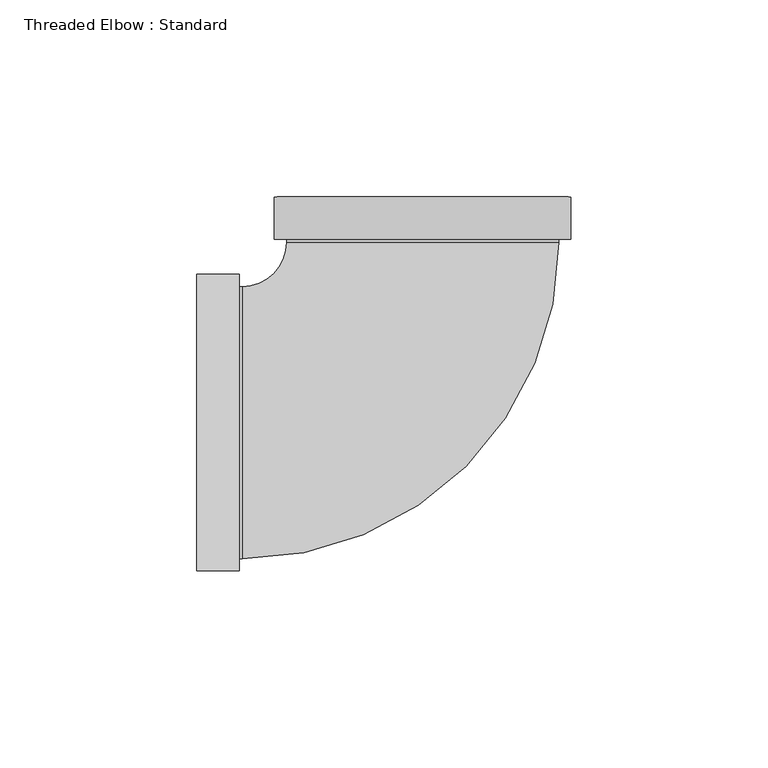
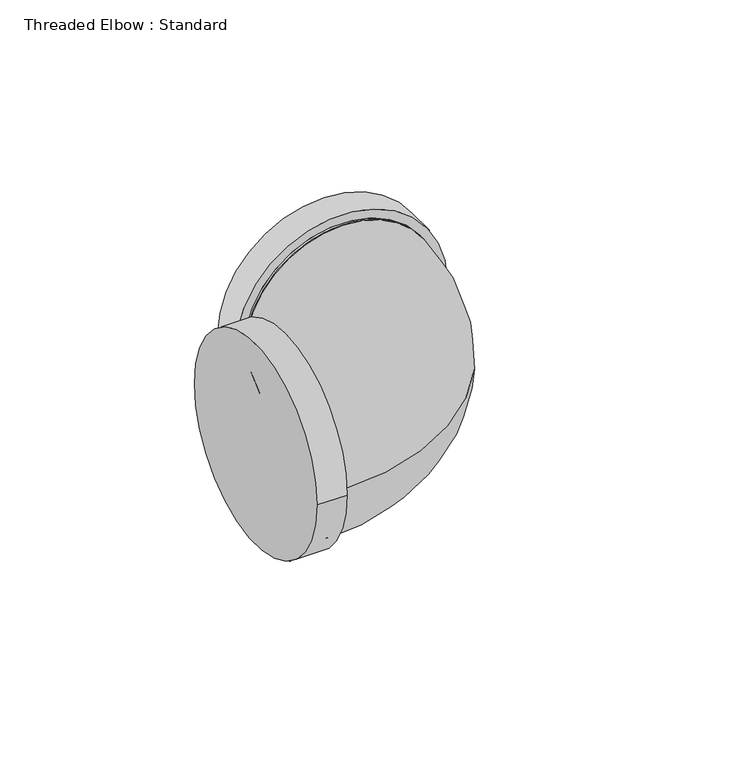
"""IFC4 building model written with IfcOpenShell, lengths in millimetres: pipe fitting geometry, Threaded Elbow : Standard."""

from ifc_helpers import new_model, si_unit, point, frame, origin, place, context, project, spatial, circle_curve, ellipse_curve, trimmed, source, transform, mapped, element, save
from ifc_brep_helpers import plane_surface, cylinder_surface, revolved_surface, advanced_brep


def threaded_elbow_standard_9b51c0a6(model_context):
    return source(origin(), model_context, "Body", "AdvancedBrep", [
        advanced_brep(
        [(37.65, 46.5849375, 0.0), (-37.65, 46.5849375, 0.0), (-34.54, 46.5849375, 0.0), (34.54, 46.5849375, 0.0), (37.65, 57.2849375, 0.0), (-37.65, 57.2849375, 0.0), (34.54, 45.7911875, 0.0), (-34.54, 45.7911875, 0.0)],
        [
            (0, 1, circle_curve(frame((0.0, 46.5849375, 0.0), z_axis=(0.0, -1.0, 0.0), x_axis=(-1.0, 0.0, 0.0)), 37.65)),
            (1, 0, circle_curve(frame((0.0, 46.5849375, 0.0), z_axis=(0.0, -1.0, 0.0), x_axis=(-1.0, 0.0, 0.0)), 37.65)),
            (2, 3, circle_curve(frame((0.0, 46.5849375, 0.0), z_axis=(0.0, 1.0, 0.0), x_axis=(-1.0, 0.0, 0.0)), 34.54)),
            (3, 2, circle_curve(frame((0.0, 46.5849375, 0.0), z_axis=(0.0, 1.0, 0.0), x_axis=(-1.0, 0.0, 0.0)), 34.54)),
            (4, 5, circle_curve(frame((0.0, 57.2849375, 0.0), z_axis=(0.0, 1.0, 0.0), x_axis=(-1.0, 0.0, 0.0)), 37.65)),
            (5, 4, circle_curve(frame((0.0, 57.2849375, 0.0), z_axis=(0.0, 1.0, 0.0), x_axis=(-1.0, 0.0, 0.0)), 37.65)),
            (0, 4),
            (5, 1),
            (6, 7, circle_curve(frame((0.0, 45.7911875, 0.0), z_axis=(0.0, -1.0, 0.0), x_axis=(-1.0, 0.0, 0.0)), 34.54)),
            (7, 6, circle_curve(frame((0.0, 45.7911875, 0.0), z_axis=(0.0, -1.0, 0.0), x_axis=(-1.0, 0.0, 0.0)), 34.54)),
            (6, 3),
            (2, 7),
        ],
        [
            plane_surface(frame((0.0, 46.5849375, 0.0), z_axis=(0.0, -1.0, 0.0), x_axis=(0.0, 0.0, 1.0))),
            plane_surface(frame((0.0, 57.2849375, 0.0), z_axis=(0.0, 1.0, 0.0), x_axis=(0.0, 0.0, 1.0))),
            cylinder_surface(frame((0.0, 46.5849375, 0.0), z_axis=(0.0, -1.0, 0.0), x_axis=(-1.0, 0.0, 0.0)), 37.65),
            plane_surface(frame((0.0, 45.7911875, 0.0), z_axis=(0.0, -1.0, 0.0), x_axis=(0.0, 0.0, 1.0))),
            cylinder_surface(frame((0.0, 45.7911875, 0.0), z_axis=(0.0, -1.0, 0.0), x_axis=(-1.0, 0.0, 0.0)), 34.54),
        ],
        [
            (0, [[1, 2], [3, 4]]),
            (1, [[5, 6]]),
            (2, [[-1, 7, -6, 8]]),
            (2, [[-2, -8, -5, -7]]),
            (3, [[9, 10]]),
            (4, [[-9, 11, -3, 12]]),
            (4, [[-10, -12, -4, -11]]),
        ],
    ),
        advanced_brep(
        [(-46.5849375, 37.65, 0.0), (-46.5849375, -37.65, 0.0), (-46.5849375, -34.54, 0.0), (-46.5849375, 34.54, 0.0), (-57.2849375, 37.65, 0.0), (-57.2849375, -37.65, 0.0), (-45.7911875, 34.54, 0.0), (-45.7911875, -34.54, 0.0)],
        [
            (0, 1, circle_curve(frame((-46.5849375, 0.0, 0.0), z_axis=(1.0, 0.0, 0.0), x_axis=(0.0, -1.0, 0.0)), 37.65)),
            (1, 0, circle_curve(frame((-46.5849375, 0.0, 0.0), z_axis=(1.0, 0.0, 0.0), x_axis=(0.0, -1.0, 0.0)), 37.65)),
            (2, 3, circle_curve(frame((-46.5849375, 0.0, 0.0), z_axis=(-1.0, 0.0, 0.0), x_axis=(0.0, -1.0, 0.0)), 34.54)),
            (3, 2, circle_curve(frame((-46.5849375, 0.0, 0.0), z_axis=(-1.0, 0.0, 0.0), x_axis=(0.0, -1.0, 0.0)), 34.54)),
            (4, 5, circle_curve(frame((-57.2849375, 0.0, 0.0), z_axis=(-1.0, 0.0, 0.0), x_axis=(0.0, -1.0, 0.0)), 37.65)),
            (5, 4, circle_curve(frame((-57.2849375, 0.0, 0.0), z_axis=(-1.0, 0.0, 0.0), x_axis=(0.0, -1.0, 0.0)), 37.65)),
            (0, 4),
            (5, 1),
            (6, 7, circle_curve(frame((-45.7911875, 0.0, 0.0), z_axis=(1.0, 0.0, 0.0), x_axis=(0.0, -1.0, 0.0)), 34.54)),
            (7, 6, circle_curve(frame((-45.7911875, 0.0, 0.0), z_axis=(1.0, 0.0, 0.0), x_axis=(0.0, -1.0, 0.0)), 34.54)),
            (6, 3),
            (2, 7),
        ],
        [
            plane_surface(frame((-46.5849375, 0.0, 0.0), z_axis=(1.0, 0.0, 0.0), x_axis=(0.0, 0.0, 1.0))),
            plane_surface(frame((-57.2849375, 0.0, 0.0), z_axis=(-1.0, 0.0, 0.0), x_axis=(0.0, 0.0, 1.0))),
            cylinder_surface(frame((-46.5849375, 0.0, 0.0), z_axis=(1.0, 0.0, 0.0), x_axis=(0.0, -1.0, 0.0)), 37.65),
            plane_surface(frame((-45.7911875, 0.0, 0.0), z_axis=(1.0, 0.0, 0.0), x_axis=(0.0, 0.0, 1.0))),
            cylinder_surface(frame((-45.7911875, 0.0, 0.0), z_axis=(1.0, 0.0, 0.0), x_axis=(0.0, -1.0, 0.0)), 34.54),
        ],
        [
            (0, [[1, 2], [3, 4]]),
            (1, [[5, 6]]),
            (2, [[-1, 7, -6, 8]]),
            (2, [[-2, -8, -5, -7]]),
            (3, [[9, 10]]),
            (4, [[-9, 11, -3, 12]]),
            (4, [[-10, -12, -4, -11]]),
        ],
    ),
        advanced_brep(
        [(-37.65, 57.2849375, 0.0), (37.65, 57.2849375, 0.0), (-37.65, 46.5849375, 0.0), (37.65, 46.5849375, 0.0), (-34.54, 46.5849375, 0.0), (34.54, 46.5849375, 0.0), (34.54, 45.7911875, 0.0), (-34.54, 45.7911875, 0.0)],
        [
            (0, 1, circle_curve(frame((0.0, 57.2849375, 0.0), z_axis=(0.0, 1.0, 0.0), x_axis=(1.0, 0.0, 0.0)), 37.65)),
            (1, 0, circle_curve(frame((0.0, 57.2849375, 0.0), z_axis=(0.0, 1.0, 0.0), x_axis=(1.0, 0.0, 0.0)), 37.65)),
            (2, 3, circle_curve(frame((0.0, 46.5849375, 0.0), z_axis=(0.0, -1.0, 0.0), x_axis=(1.0, 0.0, 0.0)), 37.65)),
            (3, 2, circle_curve(frame((0.0, 46.5849375, 0.0), z_axis=(0.0, -1.0, 0.0), x_axis=(1.0, 0.0, 0.0)), 37.65)),
            (4, 5, circle_curve(frame((0.0, 46.5849375, 0.0), z_axis=(0.0, 1.0, 0.0), x_axis=(-1.0, 0.0, 0.0)), 34.54)),
            (5, 4, circle_curve(frame((0.0, 46.5849375, 0.0), z_axis=(0.0, 1.0, 0.0), x_axis=(-1.0, 0.0, 0.0)), 34.54)),
            (0, 2),
            (3, 1),
            (6, 7, circle_curve(frame((0.0, 45.7911875, 0.0), z_axis=(0.0, -1.0, 0.0), x_axis=(-1.0, 0.0, 0.0)), 34.54)),
            (7, 6, circle_curve(frame((0.0, 45.7911875, 0.0), z_axis=(0.0, -1.0, 0.0), x_axis=(-1.0, 0.0, 0.0)), 34.54)),
            (6, 5),
            (4, 7),
        ],
        [
            plane_surface(frame((0.0, 57.2849375, 0.0), z_axis=(0.0, 1.0, 0.0), x_axis=(0.0, 0.0, 1.0))),
            plane_surface(frame((0.0, 46.5849375, 0.0), z_axis=(0.0, -1.0, 0.0), x_axis=(0.0, 0.0, 1.0))),
            cylinder_surface(frame((0.0, 57.2849375, 0.0), z_axis=(0.0, 1.0, 0.0), x_axis=(1.0, 0.0, 0.0)), 37.65),
            plane_surface(frame((0.0, 45.7911875, 0.0), z_axis=(0.0, -1.0, 0.0), x_axis=(0.0, 0.0, 1.0))),
            cylinder_surface(frame((0.0, 45.7911875, 0.0), z_axis=(0.0, -1.0, 0.0), x_axis=(-1.0, 0.0, 0.0)), 34.54),
        ],
        [
            (0, [[1, 2]]),
            (1, [[3, 4], [5, 6]]),
            (2, [[-1, 7, -4, 8]]),
            (2, [[-2, -8, -3, -7]]),
            (3, [[9, 10]]),
            (4, [[-9, 11, -5, 12]]),
            (4, [[-10, -12, -6, -11]]),
        ],
    ),
        advanced_brep(
        [(-46.5849375, -37.65, 0.0), (-46.5849375, 37.65, 0.0), (-46.5849375, -34.54, 0.0), (-46.5849375, 34.54, 0.0), (-57.2849375, -37.65, 0.0), (-57.2849375, 37.65, 0.0), (-45.7911875, 34.54, 0.0), (-45.7911875, -34.54, 0.0)],
        [
            (0, 1, circle_curve(frame((-46.5849375, 0.0, 0.0), z_axis=(1.0, 0.0, 0.0), x_axis=(0.0, 1.0, 0.0)), 37.65)),
            (1, 0, circle_curve(frame((-46.5849375, 0.0, 0.0), z_axis=(1.0, 0.0, 0.0), x_axis=(0.0, 1.0, 0.0)), 37.65)),
            (2, 3, circle_curve(frame((-46.5849375, 0.0, 0.0), z_axis=(-1.0, 0.0, 0.0), x_axis=(0.0, -1.0, 0.0)), 34.54)),
            (3, 2, circle_curve(frame((-46.5849375, 0.0, 0.0), z_axis=(-1.0, 0.0, 0.0), x_axis=(0.0, -1.0, 0.0)), 34.54)),
            (4, 5, circle_curve(frame((-57.2849375, 0.0, 0.0), z_axis=(-1.0, 0.0, 0.0), x_axis=(0.0, 1.0, 0.0)), 37.65)),
            (5, 4, circle_curve(frame((-57.2849375, 0.0, 0.0), z_axis=(-1.0, 0.0, 0.0), x_axis=(0.0, 1.0, 0.0)), 37.65)),
            (0, 4),
            (5, 1),
            (6, 7, circle_curve(frame((-45.7911875, 0.0, 0.0), z_axis=(1.0, 0.0, 0.0), x_axis=(0.0, -1.0, 0.0)), 34.54)),
            (7, 6, circle_curve(frame((-45.7911875, 0.0, 0.0), z_axis=(1.0, 0.0, 0.0), x_axis=(0.0, -1.0, 0.0)), 34.54)),
            (6, 3),
            (2, 7),
        ],
        [
            plane_surface(frame((-46.5849375, 37.65, 0.0), z_axis=(1.0, 0.0, 0.0), x_axis=(0.0, 0.0, 1.0))),
            plane_surface(frame((-57.2849375, 37.65, 0.0), z_axis=(-1.0, 0.0, 0.0), x_axis=(0.0, 0.0, -1.0))),
            cylinder_surface(frame((-57.2849375, 0.0, 0.0), z_axis=(1.0, 0.0, 0.0), x_axis=(0.0, 1.0, 0.0)), 37.65),
            plane_surface(frame((-45.7911875, 0.0, 0.0), z_axis=(1.0, 0.0, 0.0), x_axis=(0.0, 0.0, 1.0))),
            cylinder_surface(frame((-45.7911875, 0.0, 0.0), z_axis=(1.0, 0.0, 0.0), x_axis=(0.0, -1.0, 0.0)), 34.54),
        ],
        [
            (0, [[1, 2], [3, 4]]),
            (1, [[5, 6]]),
            (2, [[-1, 7, -6, 8]]),
            (2, [[-2, -8, -5, -7]]),
            (3, [[9, 10]]),
            (4, [[-9, 11, -3, 12]]),
            (4, [[-10, -12, -4, -11]]),
        ],
    ),
        advanced_brep(
        [(34.54, 45.7911875, 0.0), (-34.54, 45.7911875, 0.0), (-45.7911875, -34.54, 0.0), (-45.7911875, 34.54, 0.0)],
        [
            (0, 1, circle_curve(frame((0.0, 45.7911875, 0.0), z_axis=(0.0, 1.0, 0.0), x_axis=(-1.0, 0.0, 0.0)), 34.54)),
            (1, 0, circle_curve(frame((0.0, 45.7911875, 0.0), z_axis=(0.0, 1.0, 0.0), x_axis=(-1.0, 0.0, 0.0)), 34.54)),
            (2, 3, circle_curve(frame((-45.7911875, 0.0, 0.0), z_axis=(-1.0, 0.0, 0.0), x_axis=(0.0, 1.0, 0.0)), 34.54)),
            (3, 2, circle_curve(frame((-45.7911875, 0.0, 0.0), z_axis=(-1.0, 0.0, 0.0), x_axis=(0.0, 1.0, 0.0)), 34.54)),
            (3, 1, circle_curve(frame((-45.7911875, 45.7911875, 0.0), z_axis=(0.0, 0.0, 1.0), x_axis=(1.0, 0.0, 0.0)), 11.2511875)),
            (0, 2, circle_curve(frame((-45.7911875, 45.7911875, 0.0), z_axis=(0.0, 0.0, -1.0), x_axis=(1.0, 0.0, 0.0)), 80.3311875)),
        ],
        [
            plane_surface(frame((0.0, 45.7911875, 0.0), z_axis=(0.0, 1.0, 0.0), x_axis=(0.0, 0.0, -1.0))),
            plane_surface(frame((-45.7911875, 0.0, 0.0), z_axis=(-1.0, 0.0, 0.0), x_axis=(0.0, 0.0, -1.0))),
            revolved_surface(trimmed(ellipse_curve(frame((0.0, 45.7911875, 0.0), z_axis=(0.0, -1.0, 0.0), x_axis=(-1.0, 0.0, 0.0)), 34.54, 34.54), [point((-34.54, 45.7911875, 0.0))], [point((34.54, 45.7911875, 0.0))], True, "CARTESIAN"), (-45.7911875, 45.7911875, 0.0), (0.0, 0.0, 1.0)),
            revolved_surface(trimmed(ellipse_curve(frame((0.0, 45.7911875, 0.0), z_axis=(0.0, -1.0, 0.0), x_axis=(-1.0, 0.0, 0.0)), 34.54, 34.54), [point((34.54, 45.7911875, 0.0))], [point((-34.54, 45.7911875, 0.0))], True, "CARTESIAN"), (-45.7911875, 45.7911875, 0.0), (0.0, 0.0, 1.0)),
        ],
        [
            (0, [[1, 2]]),
            (1, [[3, 4]]),
            (2, [[-4, 5, -1, 6]]),
            (3, [[-3, -6, -2, -5]]),
        ],
    ),
        advanced_brep(
        [(34.54, 45.7911875, 0.0), (-34.54, 45.7911875, 0.0), (-45.7911875, -34.54, 0.0), (-45.7911875, 34.54, 0.0)],
        [
            (0, 1, circle_curve(frame((0.0, 45.7911875, 0.0), z_axis=(0.0, 1.0, 0.0), x_axis=(-1.0, 0.0, 0.0)), 34.54)),
            (1, 0, circle_curve(frame((0.0, 45.7911875, 0.0), z_axis=(0.0, 1.0, 0.0), x_axis=(-1.0, 0.0, 0.0)), 34.54)),
            (2, 3, circle_curve(frame((-45.7911875, 0.0, 0.0), z_axis=(-1.0, 0.0, 0.0), x_axis=(0.0, 1.0, 0.0)), 34.54)),
            (3, 2, circle_curve(frame((-45.7911875, 0.0, 0.0), z_axis=(-1.0, 0.0, 0.0), x_axis=(0.0, 1.0, 0.0)), 34.54)),
            (3, 1, circle_curve(frame((-45.7911875, 45.7911875, 0.0), z_axis=(0.0, 0.0, 1.0), x_axis=(1.0, 0.0, 0.0)), 11.2511875)),
            (0, 2, circle_curve(frame((-45.7911875, 45.7911875, 0.0), z_axis=(0.0, 0.0, -1.0), x_axis=(1.0, 0.0, 0.0)), 80.3311875)),
        ],
        [
            plane_surface(frame((0.0, 45.7911875, 0.0), z_axis=(0.0, 1.0, 0.0), x_axis=(0.0, 0.0, -1.0))),
            plane_surface(frame((-45.7911875, 0.0, 0.0), z_axis=(-1.0, 0.0, 0.0), x_axis=(0.0, 0.0, -1.0))),
            revolved_surface(trimmed(ellipse_curve(frame((0.0, 45.7911875, 0.0), z_axis=(0.0, -1.0, 0.0), x_axis=(-1.0, 0.0, 0.0)), 34.54, 34.54), [point((-34.54, 45.7911875, 0.0))], [point((34.54, 45.7911875, 0.0))], True, "CARTESIAN"), (-45.7911875, 45.7911875, 0.0), (0.0, 0.0, 1.0)),
            revolved_surface(trimmed(ellipse_curve(frame((0.0, 45.7911875, 0.0), z_axis=(0.0, -1.0, 0.0), x_axis=(-1.0, 0.0, 0.0)), 34.54, 34.54), [point((34.54, 45.7911875, 0.0))], [point((-34.54, 45.7911875, 0.0))], True, "CARTESIAN"), (-45.7911875, 45.7911875, 0.0), (0.0, 0.0, 1.0)),
        ],
        [
            (0, [[1, 2]]),
            (1, [[3, 4]]),
            (2, [[-4, 5, -1, 6]]),
            (3, [[-3, -6, -2, -5]]),
        ],
    ),
    ])


if __name__ == "__main__":
    model = new_model("IFC4")
    model_context = context("Model", 3, world=origin())
    ifc_project = project(units=[si_unit("LENGTHUNIT", "METRE", prefix="MILLI")], contexts=[model_context])
    site = spatial("IfcSite", under=ifc_project)
    building = spatial("IfcBuilding", under=site)
    placement = place(None, origin())
    threaded_elbow_standard_shape = threaded_elbow_standard_9b51c0a6(model_context)
    element("IfcPipeFitting", 1, ObjectType="Threaded Elbow : Standard", at=placement, inside=building, context=model_context, shape_type="MappedRepresentation", body=[
        mapped(threaded_elbow_standard_shape, transform((0.0, 0.0, 0.0), x_axis=(1.0, 0.0, 0.0), y_axis=(0.0, 1.0, 0.0), z_axis=(0.0, 0.0, 1.0))),
    ])
    save(model, "model.ifc")
